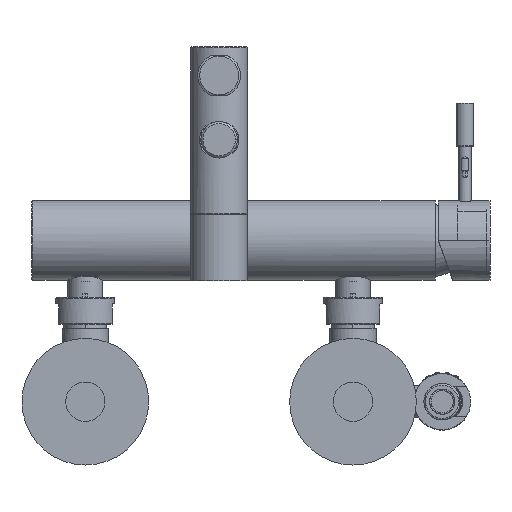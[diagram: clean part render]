
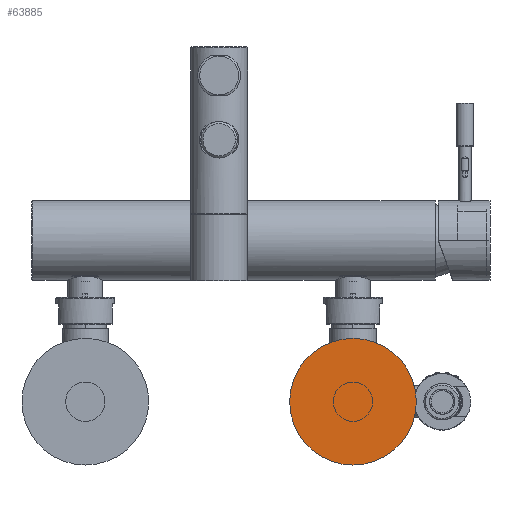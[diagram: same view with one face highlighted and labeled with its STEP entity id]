
A CAD part, front view. The second image highlights one B-rep face of the part: STEP entity #63885.
In plain terms, the highlighted planar face has unit normal (0, -1, 0).
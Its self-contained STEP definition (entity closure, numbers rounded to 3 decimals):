
#38560=CARTESIAN_POINT('',(75.,-787.,-90.3));
#38561=DIRECTION('',(0.,-1.,0.));
#38562=DIRECTION('',(1.,0.,0.));
#38563=AXIS2_PLACEMENT_3D('',#38560,#38561,#38562);
#38574=CARTESIAN_POINT('',(75.,-787.,-90.3));
#38575=DIRECTION('',(0.,1.,0.));
#38576=DIRECTION('',(1.,0.,0.));
#38577=AXIS2_PLACEMENT_3D('',#38574,#38575,#38576);
#39820=CARTESIAN_POINT('',(110.5,-787.,-90.3));
#39821=CARTESIAN_POINT('',(39.5,-787.,-90.3));
#39822=VERTEX_POINT('',#39820);
#39823=VERTEX_POINT('',#39821);
#63876=CARTESIAN_POINT('',(0.,-787.,-90.3));
#63877=DIRECTION('',(0.,1.,0.));
#63878=DIRECTION('',(1.,0.,0.));
#63879=AXIS2_PLACEMENT_3D('',#63876,#63877,#63878);
#63880=PLANE('',#63879);
#63881=ORIENTED_EDGE('',*,*,#63856,.F.);
#63882=ORIENTED_EDGE('',*,*,#63870,.T.);
#63883=EDGE_LOOP('',(#63881,#63882));
#63884=FACE_OUTER_BOUND('',#63883,.F.);
#63885=ADVANCED_FACE('',(#63884),#63880,.F.);
#38564=CIRCLE('',#38563,35.5);
#38578=CIRCLE('',#38577,35.5);
#63856=EDGE_CURVE('',#39822,#39823,#38564,.T.);
#63870=EDGE_CURVE('',#39822,#39823,#38578,.T.);
